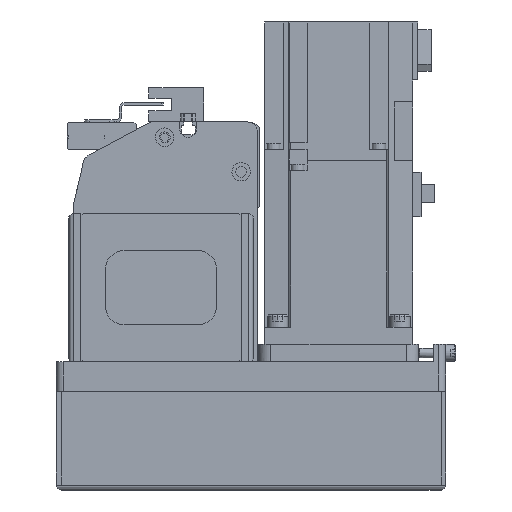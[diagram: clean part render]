
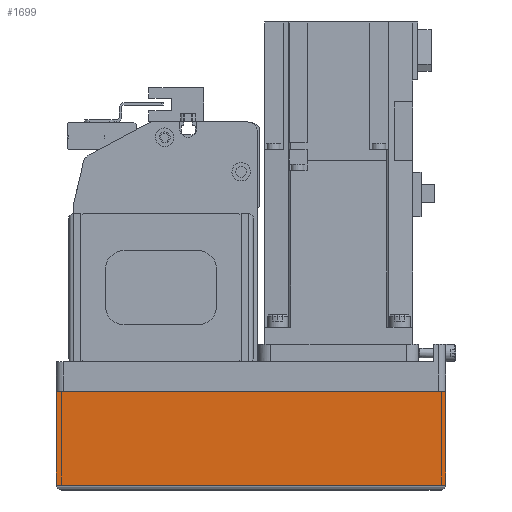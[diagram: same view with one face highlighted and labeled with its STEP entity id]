
A CAD part, left-side view. The second image highlights one B-rep face of the part: STEP entity #1699.
In plain terms, the highlighted planar face has unit normal (-1, 0, 0) as drawn and (0, 1, 0) by its records, which use the part's own axes.
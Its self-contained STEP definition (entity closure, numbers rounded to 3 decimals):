
#1699 = ADVANCED_FACE( '', ( #4159 ), #4160, .T. );
#4159 = FACE_OUTER_BOUND( '', #7590, .T. );
#4160 = PLANE( '', #7591 );
#7590 = EDGE_LOOP( '', ( #12530, #12531, #12532, #12533 ) );
#7591 = AXIS2_PLACEMENT_3D( '', #12534, #12535, #12536 );
#12530 = ORIENTED_EDGE( '', *, *, #19713, .F. );
#12531 = ORIENTED_EDGE( '', *, *, #20676, .F. );
#12532 = ORIENTED_EDGE( '', *, *, #20677, .T. );
#12533 = ORIENTED_EDGE( '', *, *, #20678, .T. );
#12534 = CARTESIAN_POINT( '', ( -158., 39., -50. ) );
#12535 = DIRECTION( '', ( 0., 1., 0. ) );
#12536 = DIRECTION( '', ( 0., 0., 1. ) );
#19713 = EDGE_CURVE( '', #23593, #23594, #23595, .T. );
#20676 = EDGE_CURVE( '', #25211, #23593, #25212, .T. );
#20677 = EDGE_CURVE( '', #25211, #25213, #25214, .T. );
#20678 = EDGE_CURVE( '', #25213, #23594, #25215, .T. );
#23593 = VERTEX_POINT( '', #29204 );
#23594 = VERTEX_POINT( '', #29205 );
#23595 = LINE( '', #29206, #29207 );
#25211 = VERTEX_POINT( '', #31716 );
#25212 = LINE( '', #31717, #31718 );
#25213 = VERTEX_POINT( '', #31719 );
#25214 = LINE( '', #31720, #31721 );
#25215 = LINE( '', #31722, #31723 );
#29204 = CARTESIAN_POINT( '', ( 0., 39., -50. ) );
#29205 = CARTESIAN_POINT( '', ( 0., 39., -12.1 ) );
#29206 = CARTESIAN_POINT( '', ( 0., 39., -50. ) );
#29207 = VECTOR( '', #36578, 1000. );
#31716 = CARTESIAN_POINT( '', ( -158., 39., -50. ) );
#31717 = CARTESIAN_POINT( '', ( -158., 39., -50. ) );
#31718 = VECTOR( '', #37835, 1000. );
#31719 = CARTESIAN_POINT( '', ( -158., 39., -12.1 ) );
#31720 = CARTESIAN_POINT( '', ( -158., 39., -50. ) );
#31721 = VECTOR( '', #37836, 1000. );
#31722 = CARTESIAN_POINT( '', ( -158., 39., -12.1 ) );
#31723 = VECTOR( '', #37837, 1000. );
#36578 = DIRECTION( '', ( 0., 0., 1. ) );
#37835 = DIRECTION( '', ( 1., 0., 0. ) );
#37836 = DIRECTION( '', ( 0., 0., 1. ) );
#37837 = DIRECTION( '', ( 1., 0., 0. ) );
